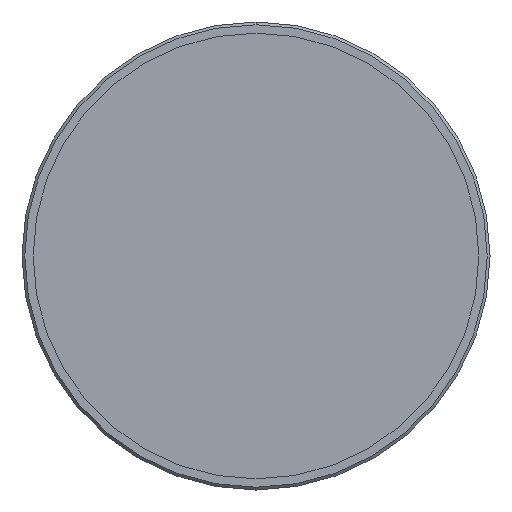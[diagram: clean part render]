
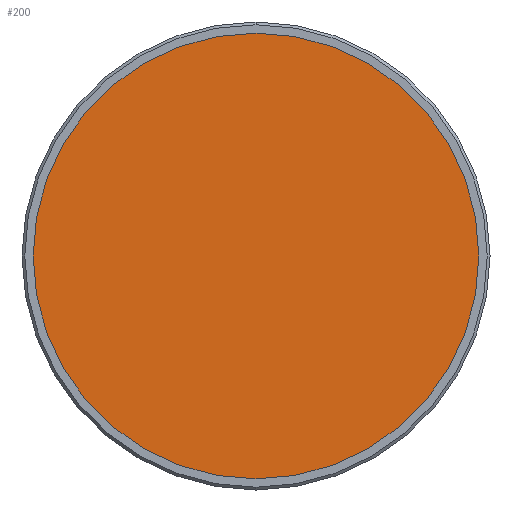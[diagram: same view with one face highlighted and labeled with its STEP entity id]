
A CAD part, left-side view. The second image highlights one B-rep face of the part: STEP entity #200.
In plain terms, the highlighted planar face has unit normal (-1, 0, 0).
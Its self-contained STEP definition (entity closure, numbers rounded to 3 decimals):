
#200=ADVANCED_FACE('Volume46',(#253),#944,.T.);
#253=FACE_OUTER_BOUND('',#811,.T.);
#484=ORIENTED_EDGE('',*,*,#601,.F.);
#485=ORIENTED_EDGE('',*,*,#600,.F.);
#600=EDGE_CURVE('40',#748,#749,#674,.T.);
#601=EDGE_CURVE('39',#749,#748,#675,.T.);
#674=CIRCLE('',#1315,20.);
#675=CIRCLE('',#1317,20.);
#748=VERTEX_POINT('40',#1183);
#749=VERTEX_POINT('39',#1185);
#811=EDGE_LOOP('',(#484,#485));
#944=PLANE('',#1318);
#1183=CARTESIAN_POINT('',(-61.,0.,-20.));
#1185=CARTESIAN_POINT('',(-61.,0.,20.));
#1187=CARTESIAN_POINT('',(-61.,0.,0.));
#1189=CARTESIAN_POINT('',(-61.,0.,0.));
#1190=CARTESIAN_POINT('',(-61.,-20.531,-20.5));
#1315=AXIS2_PLACEMENT_3D('',#1187,#1320,#1321);
#1317=AXIS2_PLACEMENT_3D('',#1189,#1320,#1319);
#1318=AXIS2_PLACEMENT_3D('',#1190,#1322,#1319);
#1319=DIRECTION('',(0.,0.,1.));
#1320=DIRECTION('',(1.,0.,0.));
#1321=DIRECTION('',(0.,0.,-1.));
#1322=DIRECTION('',(-1.,0.,0.));
